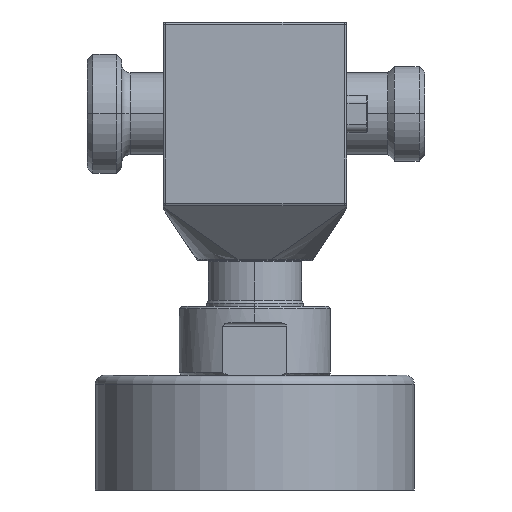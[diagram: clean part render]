
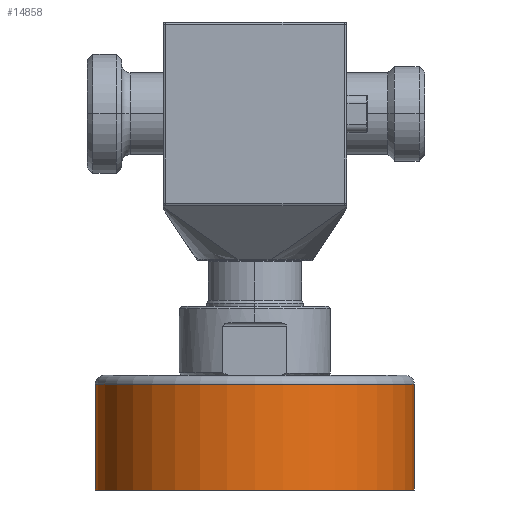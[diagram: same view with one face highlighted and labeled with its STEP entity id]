
A CAD part, left-side view. The second image highlights one B-rep face of the part: STEP entity #14858.
In plain terms, the highlighted cylindrical face has radius 34.75 mm (diameter 69.5 mm), a partial arc.
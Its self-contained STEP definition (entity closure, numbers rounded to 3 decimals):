
#243=DIRECTION('',(0.,0.,-1.));
#244=VECTOR('',#243,23.);
#245=CARTESIAN_POINT('',(-75.,34.75,-59.));
#246=LINE('',#245,#244);
#247=DIRECTION('',(0.,0.,-1.));
#248=VECTOR('',#247,23.);
#249=CARTESIAN_POINT('',(-75.,-34.75,-59.));
#250=LINE('',#249,#248);
#256=CARTESIAN_POINT('',(-75.,0.,-59.));
#257=DIRECTION('',(0.,0.,1.));
#258=DIRECTION('',(0.,1.,0.));
#259=AXIS2_PLACEMENT_3D('',#256,#257,#258);
#266=CARTESIAN_POINT('',(-75.,0.,-82.));
#267=DIRECTION('',(0.,0.,1.));
#268=DIRECTION('',(0.,1.,0.));
#269=AXIS2_PLACEMENT_3D('',#266,#267,#268);
#14487=CARTESIAN_POINT('',(-75.,34.75,-59.));
#14489=VERTEX_POINT('',#14487);
#14490=CARTESIAN_POINT('',(-75.,34.75,-82.));
#14491=VERTEX_POINT('',#14490);
#14509=CARTESIAN_POINT('',(-75.,-34.75,-59.));
#14511=VERTEX_POINT('',#14509);
#14512=CARTESIAN_POINT('',(-75.,-34.75,-82.));
#14513=VERTEX_POINT('',#14512);
#14846=CARTESIAN_POINT('',(-75.,0.,-83.25));
#14847=DIRECTION('',(0.,0.,1.));
#14848=DIRECTION('',(0.,-1.,0.));
#14849=AXIS2_PLACEMENT_3D('',#14846,#14847,#14848);
#14850=CYLINDRICAL_SURFACE('',#14849,34.75);
#14851=ORIENTED_EDGE('',*,*,#14836,.F.);
#14852=ORIENTED_EDGE('',*,*,#14813,.T.);
#14853=ORIENTED_EDGE('',*,*,#14840,.T.);
#14855=ORIENTED_EDGE('',*,*,#14854,.F.);
#14856=EDGE_LOOP('',(#14851,#14852,#14853,#14855));
#14857=FACE_OUTER_BOUND('',#14856,.F.);
#14858=ADVANCED_FACE('',(#14857),#14850,.T.);
#260=CIRCLE('',#259,34.75);
#270=CIRCLE('',#269,34.75);
#14813=EDGE_CURVE('',#14489,#14511,#260,.T.);
#14836=EDGE_CURVE('',#14489,#14491,#246,.T.);
#14840=EDGE_CURVE('',#14511,#14513,#250,.T.);
#14854=EDGE_CURVE('',#14491,#14513,#270,.T.);
